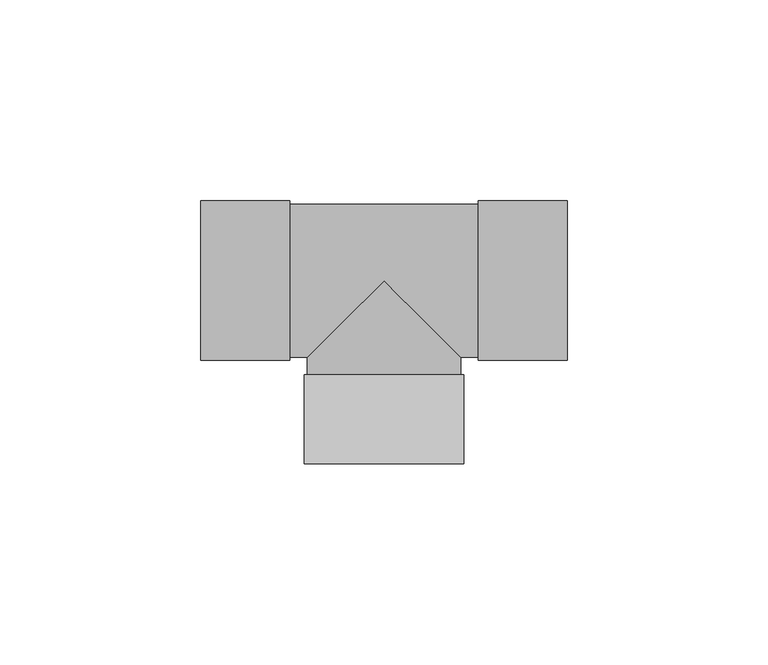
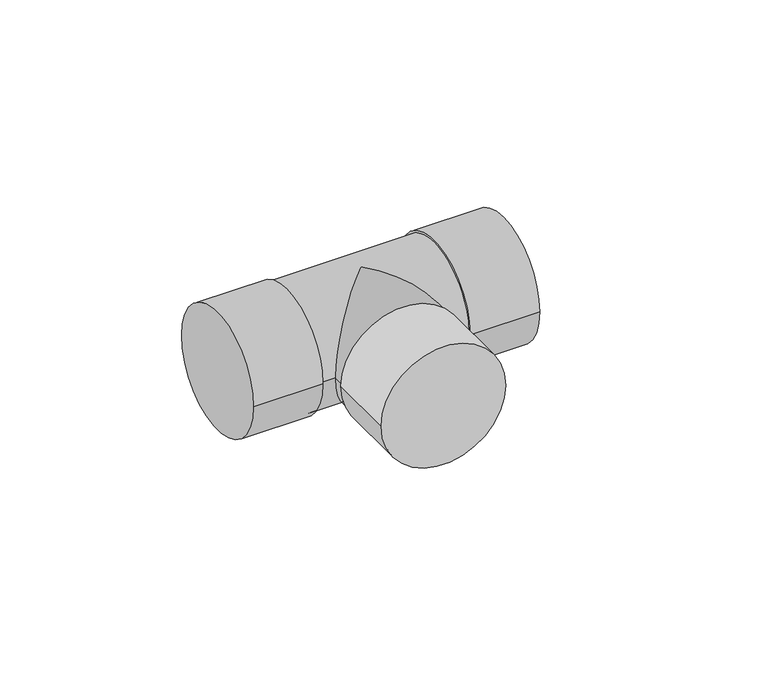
"""IFC4 building model written with IfcOpenShell, lengths in millimetres: pipe fitting geometry, Tê - Soldado - CU : Padrão."""

import ifcopenshell
import ifcopenshell.guid

model = None  # the IFC model being written
_history = None  # IfcOwnerHistory: only IFC2X3 demands one
_inside = {}  # id of a spatial element -> (the spatial element, [elements in it])
_under = {}  # id of a project, library or spatial element -> (it, [spatial elements below it])
_declared = {}  # id of a project -> (the project, [libraries it declares])
_typed = {}  # id of a type object -> (the type object, [elements of that type])
_made_of = {}  # id of a material, layer set ... -> (it, [elements and type objects made of it])


def new_model(schema):
    """Start an empty IFC model of exactly this schema.

    Asked for "IFC4X3", IfcOpenShell would pick the latest addendum, in which some entities
    have other attributes; the version numbers below select the first issue.
    IFC2X3 requires an IfcOwnerHistory on every rooted entity: one is made here for all.
    """
    global model, _history
    if schema == "IFC4X3":
        model = ifcopenshell.file(schema_version=(4, 3, 0, 0))
    else:
        model = ifcopenshell.file(schema=schema)
    _inside.clear()
    _under.clear()
    _declared.clear()
    _typed.clear()
    _made_of.clear()
    _history = None
    if model.schema == "IFC2X3":
        org = make("IfcOrganization", Name="unknown")
        user = make(
            "IfcPersonAndOrganization",
            ThePerson=make("IfcPerson", FamilyName="unknown"),
            TheOrganization=org,
        )
        app = make(
            "IfcApplication",
            ApplicationDeveloper=org,
            Version="unknown",
            ApplicationFullName="unknown",
            ApplicationIdentifier="unknown",
        )
        _history = make(
            "IfcOwnerHistory",
            OwningUser=user,
            OwningApplication=app,
            ChangeAction="ADDED",
            CreationDate=0,
        )
    return model


def make(cls, **values):
    """One entity of the class cls with the attributes given. An attribute that is None is left unset."""
    return model.create_entity(
        cls, **{name: value for name, value in values.items() if value is not None}
    )


def rooted(cls, **values):
    """An entity with a GlobalId (a new one), such as an element, a storey or a relation."""
    return make(cls, GlobalId=ifcopenshell.guid.new(), OwnerHistory=_history, **values)


def si_unit(unit_type, name, prefix=None):
    """IfcSIUnit, for example si_unit("LENGTHUNIT", "METRE", prefix="MILLI")."""
    return make("IfcSIUnit", UnitType=unit_type, Prefix=prefix, Name=name)


def assignment(units):
    """IfcUnitAssignment: the units of a project."""
    return None if units is None else make("IfcUnitAssignment", Units=units)


def point(xyz):
    """IfcCartesianPoint."""
    return None if xyz is None else make("IfcCartesianPoint", Coordinates=xyz)


def direction(xyz):
    """IfcDirection."""
    return None if xyz is None else make("IfcDirection", DirectionRatios=xyz)


def frame(location, z_axis=None, x_axis=None):
    """IfcAxis2Placement3D, a coordinate frame: its origin and axes. An axis left out is left unset."""
    return make(
        "IfcAxis2Placement3D",
        Location=point(location),
        Axis=direction(z_axis),
        RefDirection=direction(x_axis),
    )


def origin():
    """The frame at (0, 0, 0) with its axes left unset."""
    return frame((0.0, 0.0, 0.0))


def place(relative_to, where):
    """IfcLocalPlacement: puts the frame where relative to a parent placement (None: the world)."""
    return make(
        "IfcLocalPlacement", PlacementRelTo=relative_to, RelativePlacement=where
    )


def context(
    kind, dimensions, precision=None, world=None, true_north=None, identifier=None
):
    """IfcGeometricRepresentationContext, for example the 3D "Model" context."""
    return make(
        "IfcGeometricRepresentationContext",
        ContextIdentifier=identifier,
        ContextType=kind,
        CoordinateSpaceDimension=dimensions,
        Precision=precision,
        WorldCoordinateSystem=world,
        TrueNorth=true_north,
    )


def project(units=None, contexts=None):
    """IfcProject with its units and contexts."""
    return rooted(
        "IfcProject",
        Name="project",
        RepresentationContexts=contexts,
        UnitsInContext=assignment(units),
    )


def spatial(cls, under=None, at=None, **own):
    """A site, building, storey or space (cls), placed at a placement, below another one or the project."""
    s = rooted(cls, ObjectPlacement=at, **own)
    if under is not None:
        _under.setdefault(under.id(), (under, []))[1].append(s)
    return s


def circle_curve(where, radius):
    """IfcCircle in the frame where."""
    return make("IfcCircle", Position=where, Radius=radius)


def ellipse_curve(where, semi_axis1, semi_axis2):
    """IfcEllipse in the frame where."""
    return make(
        "IfcEllipse", Position=where, SemiAxis1=semi_axis1, SemiAxis2=semi_axis2
    )


def shape(context_of_items, identifier, shape_type, items):
    """IfcShapeRepresentation: the items that make up one representation, for example the "Body"."""
    return make(
        "IfcShapeRepresentation",
        ContextOfItems=context_of_items,
        RepresentationIdentifier=identifier,
        RepresentationType=shape_type,
        Items=items,
    )


def source(mapping_origin, context_of_items, identifier, shape_type, items):
    """IfcRepresentationMap: a shape defined once, which mapped items show again and again."""
    return make(
        "IfcRepresentationMap",
        MappingOrigin=mapping_origin,
        MappedRepresentation=shape(context_of_items, identifier, shape_type, items),
    )


def transform(
    local_origin,
    x_axis=None,
    y_axis=None,
    z_axis=None,
    scale=None,
    scale2=None,
    scale3=None,
    uniform=True,
):
    """IfcCartesianTransformationOperator3D, or its non-uniform kind. x_axis, y_axis, z_axis: its Axis1, 2, 3."""
    if uniform:
        return make(
            "IfcCartesianTransformationOperator3D",
            Axis1=direction(x_axis),
            Axis2=direction(y_axis),
            LocalOrigin=point(local_origin),
            Scale=scale,
            Axis3=direction(z_axis),
        )
    return make(
        "IfcCartesianTransformationOperator3DnonUniform",
        Axis1=direction(x_axis),
        Axis2=direction(y_axis),
        LocalOrigin=point(local_origin),
        Scale=scale,
        Axis3=direction(z_axis),
        Scale2=scale2,
        Scale3=scale3,
    )


def mapped(mapping_source, mapping_target):
    """IfcMappedItem: shows the shape of a source again, moved by a transform."""
    return make(
        "IfcMappedItem", MappingSource=mapping_source, MappingTarget=mapping_target
    )


def made_of(thing, what):
    """Note that an element or type object is made of a material, layer set ...; save() writes the relation."""
    if what is not None:
        _made_of.setdefault(what.id(), (what, []))[1].append(thing)
    return thing


def element(
    cls,
    number,
    at=None,
    inside=None,
    cuts=None,
    type_object=None,
    material=None,
    context=None,
    identifier="Body",
    shape_type=None,
    held_by="IfcProductDefinitionShape",
    body=None,
    shapes=None,
    **own,
):
    """One element of the class cls, such as IfcWall. Its Tag is "e" and its number.

    at: its placement. inside: the storey or other place that contains it. cuts: it is an
    opening in that element (IfcRelVoidsElement). A single representation is given by context,
    identifier, shape_type and body (its items); several are given by shapes. held_by: the class
    of the entity that holds the representations. save() writes the other relations.
    """
    e = rooted(cls, Tag="e%d" % number, ObjectPlacement=at, **own)
    if body is not None:
        shapes = [shape(context, identifier, shape_type, body)]
    if shapes is not None:
        e.Representation = make(held_by, Representations=shapes)
    if inside is not None:
        _inside.setdefault(inside.id(), (inside, []))[1].append(e)
    if cuts is not None:
        rooted(
            "IfcRelVoidsElement", RelatingBuildingElement=cuts, RelatedOpeningElement=e
        )
    if type_object is not None:
        _typed.setdefault(type_object.id(), (type_object, []))[1].append(e)
    return made_of(e, material)


def aggregate(whole, parts):
    """IfcRelAggregates: a whole, such as a stair, and the parts it consists of."""
    return rooted("IfcRelAggregates", RelatingObject=whole, RelatedObjects=parts)


def save(model, path):
    """Write the relations noted so far, then the file.

    IfcRelAggregates (storeys below a building ...), IfcRelContainedInSpatialStructure (elements
    in a storey), IfcRelDefinesByType, IfcRelAssociatesMaterial and IfcRelDeclares: one each for
    every whole, place, type object, material and project.
    """
    for whole, parts in _under.values():
        aggregate(whole, parts)
    for where, things in _inside.values():
        rooted(
            "IfcRelContainedInSpatialStructure",
            RelatedElements=things,
            RelatingStructure=where,
        )
    for kind, things in _typed.values():
        rooted("IfcRelDefinesByType", RelatedObjects=things, RelatingType=kind)
    for what, things in _made_of.values():
        rooted("IfcRelAssociatesMaterial", RelatedObjects=things, RelatingMaterial=what)
    for by, libraries in _declared.values():
        rooted("IfcRelDeclares", RelatingContext=by, RelatedDefinitions=libraries)
    model.write(path)


def plane_surface(at):
    """IfcPlane: the flat surface through the origin of the frame at, square to its z axis."""
    return make("IfcPlane", Position=at)


def cylinder_surface(at, radius):
    """IfcCylindricalSurface: all points at the distance radius from the z axis of the frame at."""
    return make("IfcCylindricalSurface", Position=at, Radius=radius)


def advanced_brep(points, edges, surfaces, faces):
    """IfcAdvancedBrep: a solid bounded by faces that lie on surfaces and meet in shared edges.

    An edge is (start, end): straight between two places in points (the first is 0);
    or (start, end, curve); or (start, end, curve, False) where it runs against its curve.
    A face is (place in surfaces, loops), or (place, loops, False) where it looks against
    its surface's normal. A loop lists edges by number (the first is 1), with a minus sign
    where the edge is run from its end to its start. The first loop is the outer one.
    """
    corners = [point(p) for p in points]
    vertices = [make("IfcVertexPoint", VertexGeometry=c) for c in corners]
    made = []
    for start, end, *more in edges:
        made.append(
            make(
                "IfcEdgeCurve",
                EdgeStart=vertices[start],
                EdgeEnd=vertices[end],
                EdgeGeometry=more[0] if more else make("IfcPolyline", Points=[corners[start], corners[end]]),
                SameSense=more[1] if len(more) > 1 else True,
            )
        )
    hull = []
    for where, loops, *sense in faces:
        bounds = []
        for j, loop in enumerate(loops):
            ring = [make("IfcOrientedEdge", EdgeElement=made[abs(k) - 1], Orientation=k > 0) for k in loop]
            bounds.append(
                make(
                    "IfcFaceOuterBound" if j == 0 else "IfcFaceBound",
                    Bound=make("IfcEdgeLoop", EdgeList=ring),
                    Orientation=True,
                )
            )
        hull.append(make("IfcAdvancedFace", Bounds=bounds, FaceSurface=surfaces[where], SameSense=sense[0] if sense else True))
    return make("IfcAdvancedBrep", Outer=make("IfcClosedShell", CfsFaces=hull))


def pipe_fitting_aa3f564d(model_context):
    return source(origin(), model_context, "Body", "AdvancedBrep", [
        advanced_brep(
        [(19.801, -45.591, 0.0), (-19.801, -45.591, 0.0), (19.801, -23.474, 0.0), (-19.801, -23.474, 0.0), (19.05, -23.474, 0.0), (-19.05, -23.474, 0.0), (-45.5305, -19.801, 0.0), (-45.5305, 19.801, 0.0), (-23.4135, -19.801, 0.0), (-23.4135, 19.801, 0.0), (-23.4135, -19.05, 0.0), (-23.4135, 19.05, 0.0), (23.4135, 19.05, 0.0), (-19.05, -19.05, 0.0), (0.0, 0.0, 19.05), (19.05, -19.05, 0.0), (23.4135, -19.05, 0.0), (0.0, 0.0, -19.05), (23.4135, -19.801, 0.0), (23.4135, 19.801, 0.0), (45.5305, -19.801, 0.0), (45.5305, 19.801, 0.0)],
        [
            (0, 1, circle_curve(frame((0.0, -45.591, 0.0), z_axis=(0.0, -1.0, 0.0), x_axis=(-1.0, 0.0, 0.0)), 19.801)),
            (1, 0, circle_curve(frame((0.0, -45.591, 0.0), z_axis=(0.0, -1.0, 0.0), x_axis=(-1.0, 0.0, 0.0)), 19.801)),
            (2, 3, circle_curve(frame((0.0, -23.474, 0.0), z_axis=(0.0, 1.0, 0.0), x_axis=(-1.0, 0.0, 0.0)), 19.801)),
            (3, 2, circle_curve(frame((0.0, -23.474, 0.0), z_axis=(0.0, 1.0, 0.0), x_axis=(-1.0, 0.0, 0.0)), 19.801)),
            (4, 5, circle_curve(frame((0.0, -23.474, 0.0), z_axis=(0.0, -1.0, 0.0), x_axis=(1.0, 0.0, 0.0)), 19.05)),
            (5, 4, circle_curve(frame((0.0, -23.474, 0.0), z_axis=(0.0, -1.0, 0.0), x_axis=(1.0, 0.0, 0.0)), 19.05)),
            (0, 2),
            (3, 1),
            (6, 7, circle_curve(frame((-45.5305, 0.0, 0.0), z_axis=(-1.0, 0.0, 0.0), x_axis=(0.0, 1.0, 0.0)), 19.801)),
            (7, 6, circle_curve(frame((-45.5305, 0.0, 0.0), z_axis=(-1.0, 0.0, 0.0), x_axis=(0.0, 1.0, 0.0)), 19.801)),
            (8, 9, circle_curve(frame((-23.4135, 0.0, 0.0), z_axis=(1.0, 0.0, 0.0), x_axis=(0.0, 1.0, 0.0)), 19.801)),
            (9, 8, circle_curve(frame((-23.4135, 0.0, 0.0), z_axis=(1.0, 0.0, 0.0), x_axis=(0.0, 1.0, 0.0)), 19.801)),
            (10, 11, circle_curve(frame((-23.4135, 0.0, 0.0), z_axis=(-1.0, 0.0, 0.0), x_axis=(0.0, 1.0, 0.0)), 19.05)),
            (11, 10, circle_curve(frame((-23.4135, 0.0, 0.0), z_axis=(-1.0, 0.0, 0.0), x_axis=(0.0, 1.0, 0.0)), 19.05)),
            (6, 8),
            (9, 7),
            (12, 11),
            (10, 13),
            (13, 14, ellipse_curve(frame((0.0, 0.0, 0.0), z_axis=(-0.7071067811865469, 0.7071067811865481, 0.0), x_axis=(-0.707106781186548, -0.7071067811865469, 0.0)), 26.9407684, 19.05)),
            (14, 15, ellipse_curve(frame((0.0, 0.0, 0.0), z_axis=(0.7071067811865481, 0.7071067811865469, 0.0), x_axis=(-0.707106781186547, 0.7071067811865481, 0.0)), 26.9407684, 19.05)),
            (15, 16),
            (16, 12, circle_curve(frame((23.4135, 0.0, 0.0), z_axis=(-1.0, 0.0, 0.0), x_axis=(0.0, 1.0, 0.0)), 19.05)),
            (12, 16, circle_curve(frame((23.4135, 0.0, 0.0), z_axis=(-1.0, 0.0, 0.0), x_axis=(0.0, 1.0, 0.0)), 19.05)),
            (15, 17, ellipse_curve(frame((0.0, 0.0, 0.0), z_axis=(0.7071067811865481, 0.7071067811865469, 0.0), x_axis=(-0.707106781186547, 0.7071067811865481, 0.0)), 26.9407684, 19.05)),
            (17, 13, ellipse_curve(frame((0.0, 0.0, 0.0), z_axis=(-0.7071067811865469, 0.7071067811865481, 0.0), x_axis=(-0.707106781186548, -0.7071067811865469, 0.0)), 26.9407684, 19.05)),
            (18, 19, circle_curve(frame((23.4135, 0.0, 0.0), z_axis=(-1.0, 0.0, 0.0), x_axis=(0.0, 1.0, 0.0)), 19.801)),
            (19, 18, circle_curve(frame((23.4135, 0.0, 0.0), z_axis=(-1.0, 0.0, 0.0), x_axis=(0.0, 1.0, 0.0)), 19.801)),
            (20, 21, circle_curve(frame((45.5305, 0.0, 0.0), z_axis=(1.0, 0.0, 0.0), x_axis=(0.0, 1.0, 0.0)), 19.801)),
            (21, 20, circle_curve(frame((45.5305, 0.0, 0.0), z_axis=(1.0, 0.0, 0.0), x_axis=(0.0, 1.0, 0.0)), 19.801)),
            (18, 20),
            (21, 19),
            (4, 15),
            (13, 5),
        ],
        [
            plane_surface(frame((0.0, -45.591, 0.0), z_axis=(0.0, -1.0, 0.0), x_axis=(0.0, 0.0, 1.0))),
            plane_surface(frame((0.0, -23.474, 0.0), z_axis=(0.0, 1.0, 0.0), x_axis=(0.0, 0.0, 1.0))),
            cylinder_surface(frame((0.0, -45.591, 0.0), z_axis=(0.0, -1.0, 0.0), x_axis=(-1.0, 0.0, 0.0)), 19.801),
            plane_surface(frame((-45.5305, 0.0, 0.0), z_axis=(-1.0, 0.0, 0.0), x_axis=(0.0, 0.0, 1.0))),
            plane_surface(frame((-23.4135, 0.0, 0.0), z_axis=(1.0, 0.0, 0.0), x_axis=(0.0, 0.0, 1.0))),
            cylinder_surface(frame((-45.5305, 0.0, 0.0), z_axis=(-1.0, 0.0, 0.0), x_axis=(0.0, 1.0, 0.0)), 19.801),
            cylinder_surface(frame((-23.4135, 0.0, 0.0), z_axis=(-1.0, 0.0, 0.0), x_axis=(0.0, 1.0, 0.0)), 19.05),
            plane_surface(frame((23.4135, 0.0, 0.0), z_axis=(-1.0, 0.0, 0.0), x_axis=(0.0, 0.0, 1.0))),
            plane_surface(frame((45.5305, 0.0, 0.0), z_axis=(1.0, 0.0, 0.0), x_axis=(0.0, 0.0, 1.0))),
            cylinder_surface(frame((23.4135, 0.0, 0.0), z_axis=(-1.0, 0.0, 0.0), x_axis=(0.0, 1.0, 0.0)), 19.801),
            cylinder_surface(frame((0.0, 0.0, 0.0), z_axis=(0.0, 1.0, 0.0), x_axis=(1.0, 0.0, 0.0)), 19.05),
        ],
        [
            (0, [[1, 2]]),
            (1, [[3, 4], [5, 6]]),
            (2, [[-1, 7, -4, 8]]),
            (2, [[-2, -8, -3, -7]]),
            (3, [[9, 10]]),
            (4, [[11, 12], [13, 14]]),
            (5, [[-9, 15, -12, 16]]),
            (5, [[-10, -16, -11, -15]]),
            (6, [[17, -13, 18, 19, 20, 21, 22]]),
            (6, [[-17, 23, -21, 24, 25, -18, -14]]),
            (7, [[26, 27], [-22, -23]]),
            (8, [[28, 29]]),
            (9, [[-26, 30, -29, 31]]),
            (9, [[-27, -31, -28, -30]]),
            (10, [[32, -20, -19, 33, -5]]),
            (10, [[-32, -6, -33, -25, -24]]),
        ],
    ),
    ])


if __name__ == "__main__":
    model = new_model("IFC4")
    model_context = context("Model", 3, world=origin())
    ifc_project = project(units=[si_unit("LENGTHUNIT", "METRE", prefix="MILLI")], contexts=[model_context])
    site = spatial("IfcSite", under=ifc_project)
    building = spatial("IfcBuilding", under=site)
    placement = place(None, origin())
    pipe_fitting_shape = pipe_fitting_aa3f564d(model_context)
    element("IfcPipeFitting", 1, ObjectType="Tê - Soldado - CU : Padrão", at=placement, inside=building, context=model_context, shape_type="MappedRepresentation", body=[
        mapped(pipe_fitting_shape, transform((0.0, 0.0, 0.0), x_axis=(1.0, 0.0, 0.0), y_axis=(0.0, 1.0, 0.0), z_axis=(0.0, 0.0, 1.0))),
    ])
    save(model, "model.ifc")
